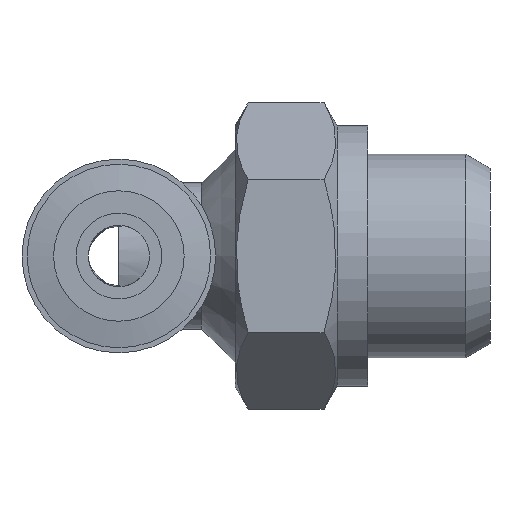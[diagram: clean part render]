
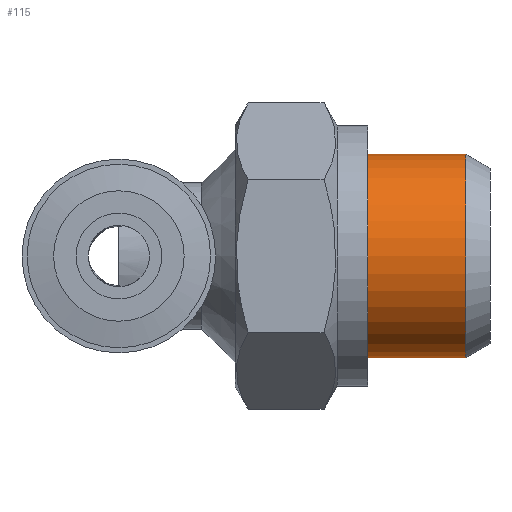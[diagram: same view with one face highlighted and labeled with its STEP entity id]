
A CAD part, front view. The second image highlights one B-rep face of the part: STEP entity #115.
In plain terms, the highlighted cylindrical face has radius 5 mm (diameter 10 mm), a full revolution.
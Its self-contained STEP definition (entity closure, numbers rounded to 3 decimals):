
#73=CARTESIAN_POINT('',(17.0,5.0,0.));
#74=VERTEX_POINT('',#73);
#75=CARTESIAN_POINT('',(17.0,0.0,0.0));
#76=DIRECTION('',(1.0,0.0,0.0));
#77=DIRECTION('',(0.0,-1.0,0.0));
#78=AXIS2_PLACEMENT_3D('',#75,#76,#77);
#79=CIRCLE('',#78,5.0);
#80=EDGE_CURVE('',#74,#74,#79,.T.);
#96=CARTESIAN_POINT('',(15.2,0.0,0.0));
#97=DIRECTION('',(1.0,0.0,0.0));
#98=DIRECTION('',(0.0,1.0,0.0));
#99=AXIS2_PLACEMENT_3D('',#96,#97,#98);
#100=CYLINDRICAL_SURFACE('',#99,5.0);
#101=CARTESIAN_POINT('',(12.2,5.0,0.0));
#102=VERTEX_POINT('',#101);
#103=CARTESIAN_POINT('',(12.2,0.0,0.0));
#104=DIRECTION('',(1.0,0.0,0.0));
#105=DIRECTION('',(0.0,1.0,0.0));
#106=AXIS2_PLACEMENT_3D('',#103,#104,#105);
#107=CIRCLE('',#106,5.0);
#108=EDGE_CURVE('',#102,#102,#107,.T.);
#109=ORIENTED_EDGE('',*,*,#108,.T.);
#110=EDGE_LOOP('',(#109));
#111=FACE_OUTER_BOUND('',#110,.T.);
#112=ORIENTED_EDGE('',*,*,#80,.F.);
#113=EDGE_LOOP('',(#112));
#114=FACE_BOUND('',#113,.T.);
#115=ADVANCED_FACE('',(#111,#114),#100,.T.);
